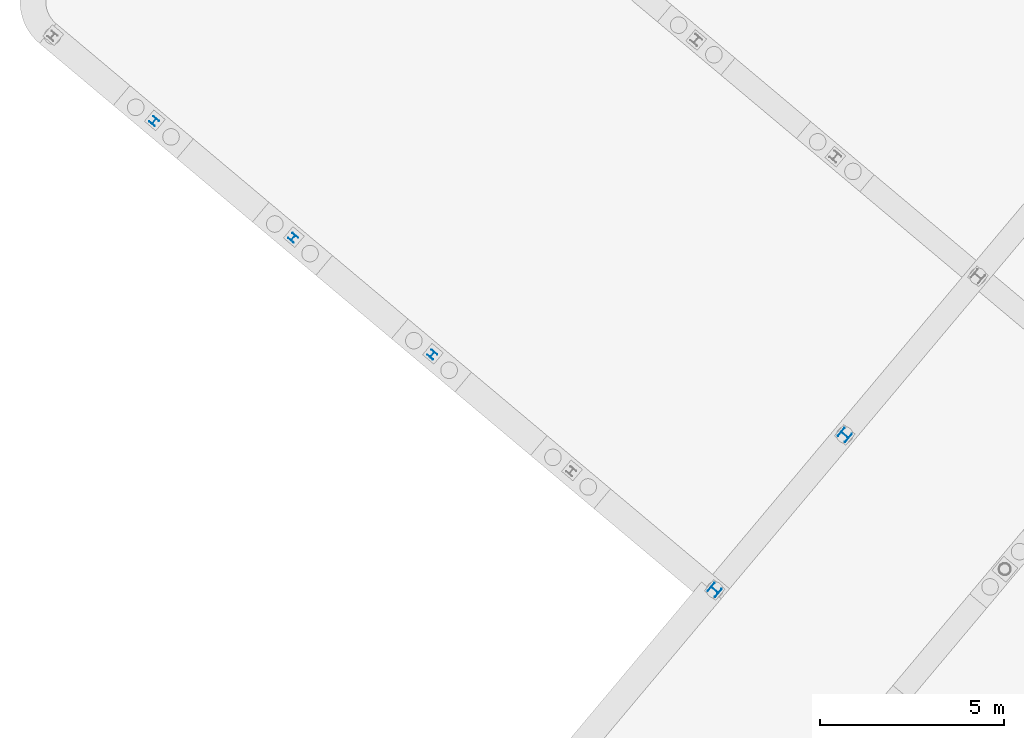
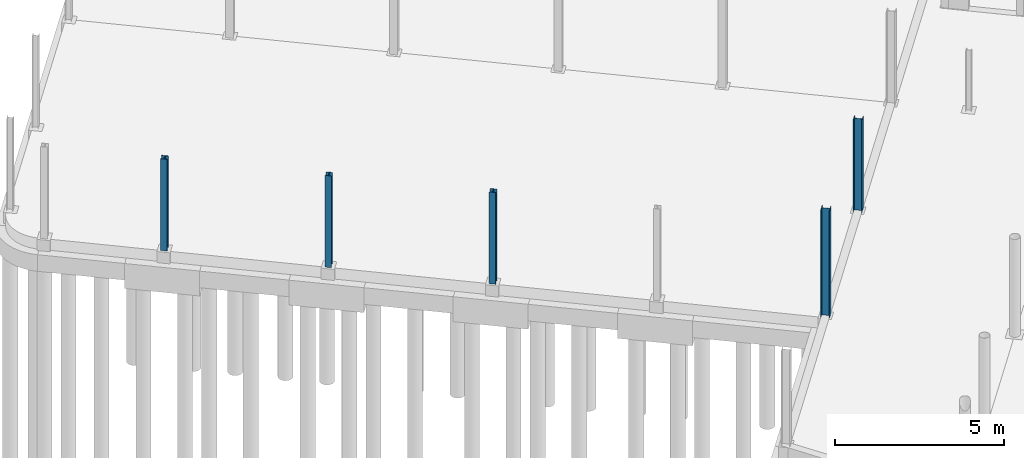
# One storey, part 6 of 26: 5 columns.
"""IFC2X3 building model written with IfcOpenShell, lengths in millimetres."""

from ifc_helpers import new_model, entity, si_unit, converted_unit, derived_unit, direction, frame, frame_2d, origin, origin_2d_with_axis, place, context, subcontext, project, spatial, i_section, extrude, source, transform, mapped, material, type_object, type_shapes, element, save


model = new_model("IFC2X3")

# Units and contexts
model_context = context("Model", 3, precision=0.01, world=origin(), true_north=direction((6.123031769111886e-17, 1.0)))
body_context = subcontext(model_context, "Body", "Model", "MODEL_VIEW")
ifc_project = project(units=[si_unit("LENGTHUNIT", "METRE", prefix="MILLI"), si_unit("AREAUNIT", "SQUARE_METRE"), si_unit("VOLUMEUNIT", "CUBIC_METRE"), derived_unit("MASSDENSITYUNIT", [(si_unit("MASSUNIT", "GRAM", prefix="KILO"), 1), (si_unit("LENGTHUNIT", "METRE"), -3)]), si_unit("MASSUNIT", "GRAM", prefix="KILO"), converted_unit("PLANEANGLEUNIT", "DEGREE", entity("IfcPlaneAngleMeasure", 0.017453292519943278), si_unit("PLANEANGLEUNIT", "RADIAN"), dimensions=[0, 0, 0, 0, 0, 0, 0])], contexts=[model_context])

# Site, building, storey
site_placement = place(None, origin())
site = spatial("IfcSite", under=ifc_project, at=site_placement, Name="Default", CompositionType="ELEMENT")
building_placement = place(site_placement, origin())
building = spatial("IfcBuilding", under=site, at=building_placement, Name="AT constructie", CompositionType="ELEMENT")
storey_placement = place(building_placement, origin())
storey = spatial("IfcBuildingStorey", under=building, at=storey_placement, Name="00 begane grond", CompositionType="ELEMENT", Elevation=-1.0828671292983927e-12)

# Columns
ifc_material = material(Name="h2_staal_S355")
column_type_1 = type_object("IfcColumnType", Name="kolom_gen_HEA280", PredefinedType="COLUMN", material=ifc_material)
shared_shape_1 = source(origin(), body_context, "Body", "SweptSolid", [
    extrude(i_section(OverallWidth=279.9999999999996, OverallDepth=269.99999999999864, WebThickness=8.000000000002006, FlangeThickness=13.000000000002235, FilletRadius=24.0, at=origin_2d_with_axis()), frame((25163.958090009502, 20291.969762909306, -50.0), z_axis=(0.0, 0.0, 1.0), x_axis=(-0.6427876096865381, -0.766044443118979, 0.0)), (0.0, 0.0, 1.0), 3863.999999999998),
])
type_shapes(column_type_1, [shared_shape_1])
column_1_placement = place(storey_placement, origin())
element("IfcColumn", 1, at=column_1_placement, inside=storey, type_object=column_type_1, material=ifc_material, Name="NLRS_28_SC_TLB_kolom HEA_gen_AT:kolom_gen_HEA280", ObjectType="NLRS_28_SC_TLB_kolom HEA_gen_AT:kolom_gen_HEA280", context=body_context, shape_type="MappedRepresentation", body=[
    mapped(shared_shape_1, transform((0.0, 0.0, 0.0), scale=1.0)),
])
column_type_2 = type_object("IfcColumnType", Name="kolom_gen_HEA280", PredefinedType="COLUMN", material=ifc_material)
shared_shape_2 = source(origin(), body_context, "Body", "SweptSolid", [
    extrude(i_section(OverallWidth=279.9999999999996, OverallDepth=269.9999999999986, WebThickness=8.000000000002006, FlangeThickness=13.000000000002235, FilletRadius=24.0, at=frame_2d((-5.5706550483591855e-12, 6.622258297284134e-12), x_axis=(1.0, 0.0))), frame((28696.076005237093, 24501.38397784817, -50.0), z_axis=(0.0, 0.0, 1.0), x_axis=(-0.6427876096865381, -0.766044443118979, 0.0)), (0.0, 0.0, 1.0), 3307.9999999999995),
])
type_shapes(column_type_2, [shared_shape_2])
column_2_placement = place(storey_placement, origin())
element("IfcColumn", 2, at=column_2_placement, inside=storey, type_object=column_type_2, material=ifc_material, Name="NLRS_28_SC_TLB_kolom HEA_gen_AT:kolom_gen_HEA280", ObjectType="NLRS_28_SC_TLB_kolom HEA_gen_AT:kolom_gen_HEA280", context=body_context, shape_type="MappedRepresentation", body=[
    mapped(shared_shape_2, transform((0.0, 0.0, 0.0), scale=1.0)),
])
column_type_3 = type_object("IfcColumnType", Name="kolom_gen_HEA200", PredefinedType="COLUMN", material=ifc_material)
shared_shape_3 = source(origin(), body_context, "Body", "SweptSolid", [
    extrude(i_section(OverallWidth=199.99999999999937, OverallDepth=190.00000000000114, WebThickness=6.499999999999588, FlangeThickness=9.999999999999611, FilletRadius=18.0, at=frame_2d((-4.440892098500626e-12, 1.9255708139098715e-12), x_axis=(1.0, 0.0))), frame((17492.50675912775, 26683.392490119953, -50.0), z_axis=(0.0, 0.0, 1.0), x_axis=(0.7660444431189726, -0.6427876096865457, 0.0)), (0.0, 0.0, 1.0), 3307.9999999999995),
])
type_shapes(column_type_3, [shared_shape_3])
column_3_placement = place(storey_placement, origin())
element("IfcColumn", 3, at=column_3_placement, inside=storey, type_object=column_type_3, material=ifc_material, Name="NLRS_28_SC_TLB_kolom HEA_gen_AT:kolom_gen_HEA200", ObjectType="NLRS_28_SC_TLB_kolom HEA_gen_AT:kolom_gen_HEA200", context=body_context, shape_type="MappedRepresentation", body=[
    mapped(shared_shape_3, transform((0.0, 0.0, 0.0), scale=1.0)),
])
column_type_4 = type_object("IfcColumnType", Name="kolom_gen_HEA200", PredefinedType="COLUMN", material=ifc_material)
shared_shape_4 = source(origin(), body_context, "Body", "SweptSolid", [
    extrude(i_section(OverallWidth=199.99999999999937, OverallDepth=190.00000000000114, WebThickness=6.499999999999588, FlangeThickness=9.999999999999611, FilletRadius=18.0, at=frame_2d((-5.5635496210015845e-12, 6.636469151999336e-12), x_axis=(1.0, 0.0))), frame((9939.308549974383, 33021.27832162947, -50.0), z_axis=(0.0, 0.0, 1.0), x_axis=(0.7660444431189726, -0.6427876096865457, 0.0)), (0.0, 0.0, 1.0), 3307.9999999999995),
])
type_shapes(column_type_4, [shared_shape_4])
column_4_placement = place(storey_placement, origin())
element("IfcColumn", 4, at=column_4_placement, inside=storey, type_object=column_type_4, material=ifc_material, Name="NLRS_28_SC_TLB_kolom HEA_gen_AT:kolom_gen_HEA200", ObjectType="NLRS_28_SC_TLB_kolom HEA_gen_AT:kolom_gen_HEA200", context=body_context, shape_type="MappedRepresentation", body=[
    mapped(shared_shape_4, transform((0.0, 0.0, 0.0), scale=1.0)),
])
column_type_5 = type_object("IfcColumnType", Name="kolom_gen_HEA200", PredefinedType="COLUMN", material=ifc_material)
shared_shape_5 = source(origin(), body_context, "Body", "SweptSolid", [
    extrude(i_section(OverallWidth=199.99999999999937, OverallDepth=190.00000000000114, WebThickness=6.499999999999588, FlangeThickness=9.999999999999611, FilletRadius=18.0, at=frame_2d((-4.440892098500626e-12, 1.9255708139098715e-12), x_axis=(1.0, 0.0))), frame((13715.907654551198, 29852.335405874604, -50.0), z_axis=(0.0, 0.0, 1.0), x_axis=(0.7660444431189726, -0.6427876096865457, 0.0)), (0.0, 0.0, 1.0), 3307.9999999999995),
])
type_shapes(column_type_5, [shared_shape_5])
column_5_placement = place(storey_placement, origin())
element("IfcColumn", 5, at=column_5_placement, inside=storey, type_object=column_type_5, material=ifc_material, Name="NLRS_28_SC_TLB_kolom HEA_gen_AT:kolom_gen_HEA200", ObjectType="NLRS_28_SC_TLB_kolom HEA_gen_AT:kolom_gen_HEA200", context=body_context, shape_type="MappedRepresentation", body=[
    mapped(shared_shape_5, transform((0.0, 0.0, 0.0), scale=1.0)),
])

save(model, "model.ifc")
